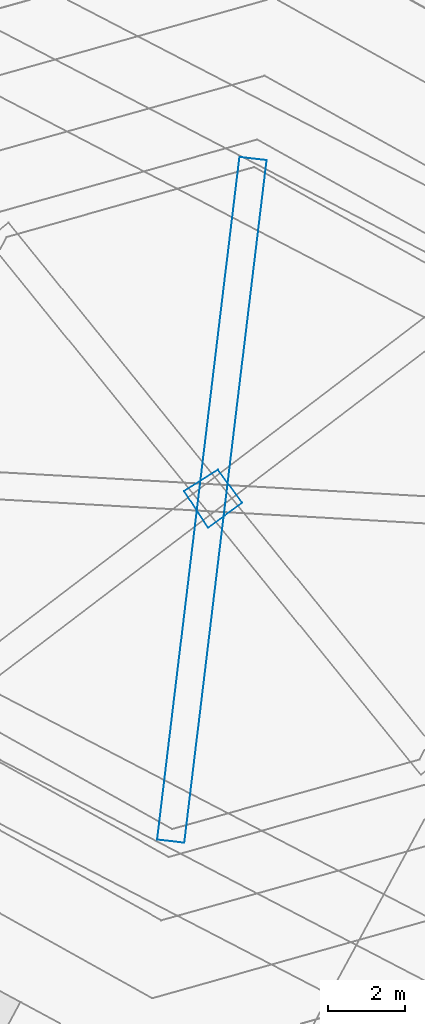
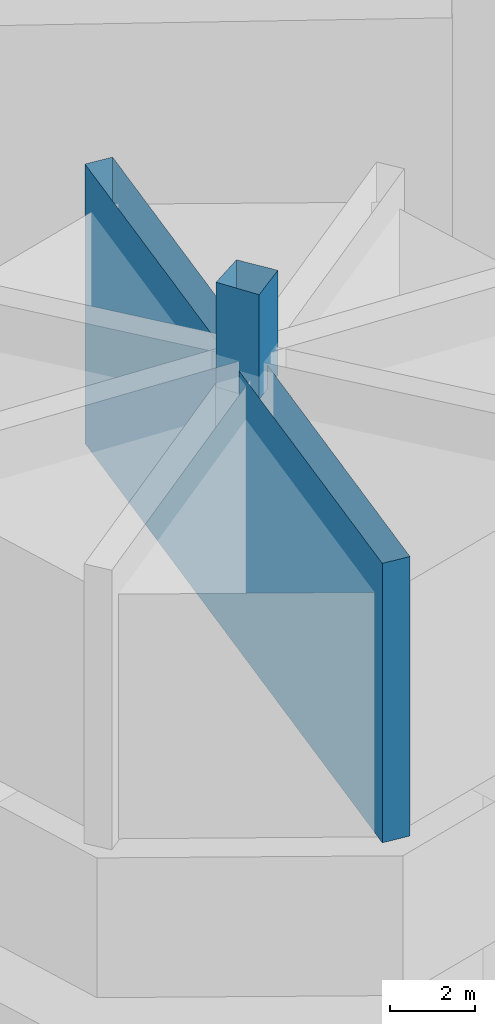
# Not in any storey, part 25 of 76: 2 walls.
"""IFC2X3 model written with IfcOpenShell, lengths in metres."""

from ifc_helpers import new_model, si_unit, frame, origin_with_axes, place, context, subcontext, project, faceted_brep, element, save


model = new_model("IFC2X3")

# Units and contexts
model_context = context("Model", 3, precision=1e-05, world=origin_with_axes())
body_context = subcontext(model_context, "Body", "Model", "MODEL_VIEW")
ifc_project = project(units=[si_unit("AREAUNIT", "SQUARE_METRE"), si_unit("LENGTHUNIT", "METRE")], contexts=[model_context])

# Walls
wall_1_placement = place(None, frame((205.5562085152, 290.3465658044, 267.1773750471), z_axis=(0.0, 0.0, 1.0), x_axis=(1.0, 0.0, 0.0)))
element("IfcWall", 1, at=wall_1_placement, Name="Mur 0", context=body_context, shape_type="Brep", body=[
    faceted_brep([(0.6187999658, -0.947598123, 3.0), (0.0, 0.0, 3.0), (0.6187999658, -0.947598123, 0.0), (0.0, 0.0, 0.0), (1.4976682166, -0.304548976, 3.0), (1.4976682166, -0.304548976, 0.0), (0.87146067, 0.5541448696, 3.0), (0.87146067, 0.5541448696, 0.0)], [[[0, 1, 2]], [[2, 1, 3]], [[4, 0, 5]], [[5, 0, 2]], [[1, 6, 3]], [[3, 6, 7]], [[6, 4, 7]], [[7, 4, 5]]]),
])
wall_2_placement = place(None, frame((204.8589467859, 281.3456288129, 259.8320280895), z_axis=(0.0, 0.0, 1.0), x_axis=(1.0, 0.0, 0.0)))
element("IfcWall", 2, at=wall_2_placement, Name="Mur 0", context=body_context, shape_type="Brep", body=[
    faceted_brep([(0.7015744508, -0.0806595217, 8.0), (0.0, 0.0, 8.0), (0.7015744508, -0.0806595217, 0.0), (0.0, 0.0, 0.0), (2.8264731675, 17.5411295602, 8.0), (2.8264731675, 17.5411295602, 0.0), (2.1249003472, 17.6217888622, 8.0), (2.1249003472, 17.6217888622, 0.0)], [[[0, 1, 2]], [[2, 1, 3]], [[4, 0, 5]], [[5, 0, 2]], [[1, 6, 3]], [[3, 6, 7]], [[6, 4, 7]], [[7, 4, 5]]]),
])

save(model, "model.ifc")
